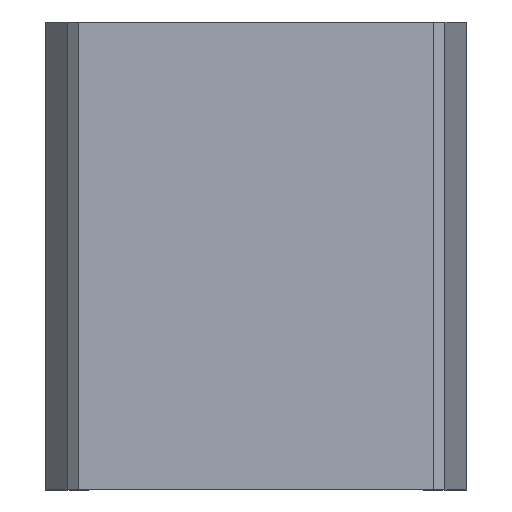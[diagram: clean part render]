
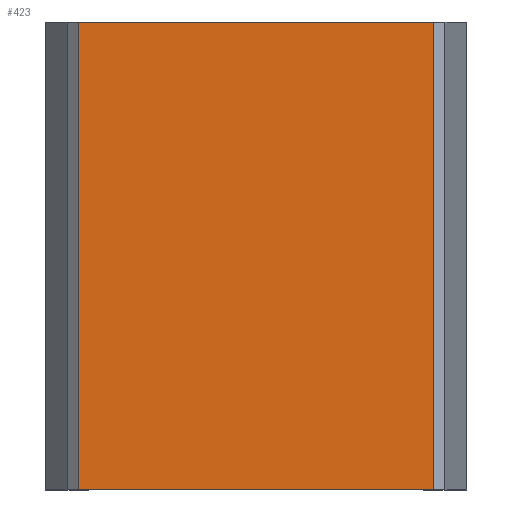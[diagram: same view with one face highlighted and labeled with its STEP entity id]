
A CAD part, top view. The second image highlights one B-rep face of the part: STEP entity #423.
In plain terms, the highlighted planar face has unit normal (0, 0, 1).
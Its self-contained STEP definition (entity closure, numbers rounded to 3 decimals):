
#47=FACE_OUTER_BOUND('',#71,.T.);
#71=EDGE_LOOP('',(#345,#346,#347,#348));
#115=LINE('',#686,#165);
#116=LINE('',#689,#166);
#117=LINE('',#691,#167);
#118=LINE('',#692,#168);
#165=VECTOR('',#567,10.);
#166=VECTOR('',#570,10.);
#167=VECTOR('',#571,10.);
#168=VECTOR('',#572,10.);
#205=VERTEX_POINT('',#682);
#206=VERTEX_POINT('',#684);
#207=VERTEX_POINT('',#688);
#208=VERTEX_POINT('',#690);
#259=EDGE_CURVE('',#205,#206,#115,.T.);
#260=EDGE_CURVE('',#207,#205,#116,.T.);
#261=EDGE_CURVE('',#208,#206,#117,.T.);
#262=EDGE_CURVE('',#207,#208,#118,.T.);
#345=ORIENTED_EDGE('',*,*,#260,.T.);
#346=ORIENTED_EDGE('',*,*,#259,.T.);
#347=ORIENTED_EDGE('',*,*,#261,.F.);
#348=ORIENTED_EDGE('',*,*,#262,.F.);
#399=PLANE('',#469);
#423=ADVANCED_FACE('',(#47),#399,.T.);
#469=AXIS2_PLACEMENT_3D('',#687,#568,#569);
#567=DIRECTION('',(0.,1.,0.));
#568=DIRECTION('center_axis',(0.,0.,1.));
#569=DIRECTION('ref_axis',(1.,0.,0.));
#570=DIRECTION('',(1.,0.,0.));
#571=DIRECTION('',(1.,0.,0.));
#572=DIRECTION('',(0.,1.,0.));
#682=CARTESIAN_POINT('',(7.6,0.,5.));
#684=CARTESIAN_POINT('',(7.6,20.,5.));
#686=CARTESIAN_POINT('',(7.6,0.,5.));
#687=CARTESIAN_POINT('Origin',(-7.6,0.,5.));
#688=CARTESIAN_POINT('',(-7.6,0.,5.));
#689=CARTESIAN_POINT('',(-7.6,0.,5.));
#690=CARTESIAN_POINT('',(-7.6,20.,5.));
#691=CARTESIAN_POINT('',(-7.6,20.,5.));
#692=CARTESIAN_POINT('',(-7.6,0.,5.));
